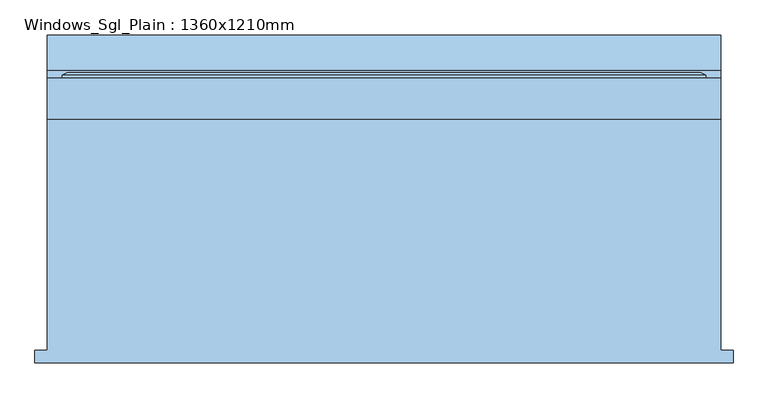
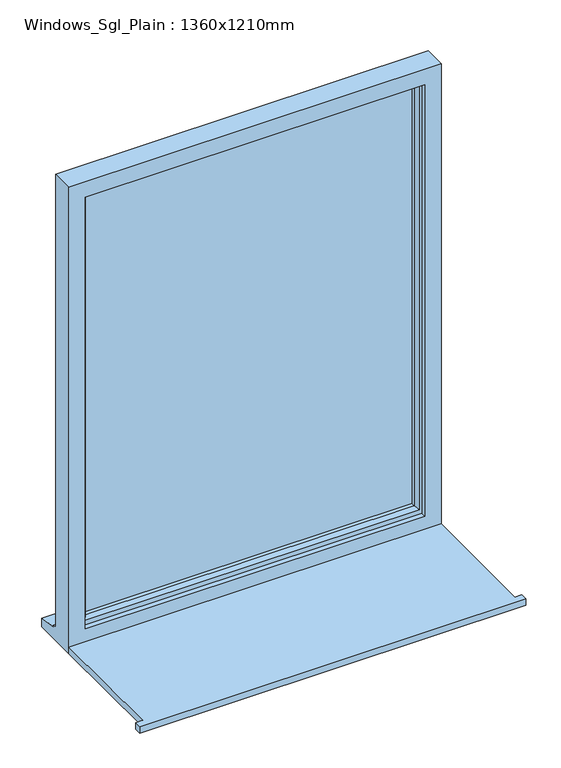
"""IFC4 building model written with IfcOpenShell, lengths in millimetres: window geometry, Windows_Sgl_Plain : 1360x1210mm."""

from ifc_helpers import new_model, si_unit, frame, origin, place, context, project, spatial, polyline, outline, extrude, faceted_brep, source, transform, mapped, element, save


def windows_sgl_plain_1360x1210mm_ccfeedc9(model_context):
    return source(origin(), model_context, "Body", "SolidModel", [
        extrude(outline(polyline([(-705.0, -316.5434322), (-705.0, -291.5434322), (-680.0, -291.5434322), (-680.0, 175.4565678), (680.0, 175.4565678), (680.0, -291.5434322), (705.0, -291.5434322), (705.0, -316.5434322), (-705.0, -316.5434322)])), frame((0.0, 0.0, 310.0), z_axis=(0.0, 0.0, 1.0), x_axis=(1.0, 0.0, 0.0)), (0.0, 0.0, 1.0), 25.0),
        faceted_brep([(-680.0, 175.4565678, 310.0), (680.0, 175.4565678, 310.0), (680.0, 175.4565678, 2110.0), (-680.0, 175.4565678, 2110.0), (-620.0, 175.4565678, 2050.0), (620.0, 175.4565678, 2050.0), (620.0, 175.4565678, 385.0), (-620.0, 175.4565678, 385.0), (-680.0, 258.4565678, 2110.0), (-680.0, 258.4565678, 361.0), (-680.0, 273.4565678, 359.68767), (-680.0, 273.4565678, 354.7449676), (-680.0, 345.9565678, 343.8088847), (-680.0, 345.9565678, 310.0), (680.0, 258.4565678, 2110.0), (680.0, 258.4565678, 361.0), (-640.0, 258.4565678, 2070.0), (-640.0, 258.4565678, 373.0), (640.0, 258.4565678, 373.0), (640.0, 258.4565678, 2070.0), (-640.0, 193.4565678, 2070.0), (-640.0, 193.4565678, 373.0), (640.0, 193.4565678, 2070.0), (640.0, 193.4565678, 373.0), (-620.0, 193.4565678, 2050.0), (-620.0, 193.4565678, 385.0), (620.0, 193.4565678, 385.0), (620.0, 193.4565678, 2050.0), (680.0, 345.9565678, 310.0), (680.0, 345.9565678, 343.8088847), (680.0, 273.4565678, 354.7449676), (680.0, 273.4565678, 359.68767)], [[[0, 1, 2, 3], [4, 5, 6, 7]], [[0, 3, 8, 9, 10, 11, 12, 13]], [[9, 8, 14, 15], [16, 17, 18, 19]], [[17, 16, 20, 21]], [[20, 22, 23, 21], [24, 25, 26, 27]], [[24, 4, 7, 25]], [[3, 2, 14, 8]], [[16, 19, 22, 20]], [[5, 4, 24, 27]], [[15, 14, 2, 1, 28, 29, 30, 31]], [[19, 18, 23, 22]], [[5, 27, 26, 6]], [[28, 1, 0, 13]], [[29, 28, 13, 12]], [[30, 29, 12, 11]], [[31, 30, 11, 10]], [[15, 31, 10, 9]], [[21, 23, 18, 17]], [[7, 6, 26, 25]]]),
        extrude(outline(polyline([(610.0, 222.4565678), (-610.0, 222.4565678), (-610.0, 246.4565678), (610.0, 246.4565678), (610.0, 222.4565678)])), frame((0.0, 0.0, 403.0), z_axis=(0.0, 0.0, 1.0), x_axis=(1.0, 0.0, 0.0)), (0.0, 0.0, 1.0), 1637.0),
        faceted_brep([(-650.0, 258.4565678, 2080.0), (-650.0, 264.2300705, 2080.0), (-650.0, 264.2300705, 363.0), (-650.0, 258.4565678, 363.0), (-640.0, 193.4565678, 2070.0), (-640.0, 258.4565678, 2070.0), (-640.0, 258.4565678, 373.0), (-640.0, 193.4565678, 373.0), (-600.0, 207.9494677, 2030.0), (-610.1480377, 193.4565678, 2040.1480377), (-610.1480377, 193.4565678, 402.8519623), (-600.0, 207.9494677, 413.0), (-600.0, 222.4565678, 2030.0), (-600.0, 222.4565678, 413.0), (-610.0, 246.4565678, 2040.0), (-610.0, 222.4565678, 2040.0), (-610.0, 222.4565678, 403.0), (-610.0, 246.4565678, 403.0), (-600.0, 264.2300705, 2030.0), (-600.0, 246.4565678, 2030.0), (-600.0, 246.4565678, 413.0), (-600.0, 264.2300705, 413.0), (-617.4457548, 270.0035732, 2047.4457548), (-617.4457548, 270.0035732, 395.5542452), (-639.2153903, 270.0035732, 2069.2153903), (-639.2153903, 270.0035732, 373.7846097), (650.0, 264.2300705, 363.0), (650.0, 258.4565678, 363.0), (640.0, 258.4565678, 373.0), (640.0, 193.4565678, 373.0), (610.1480377, 193.4565678, 402.8519623), (600.0, 207.9494677, 413.0), (600.0, 222.4565678, 413.0), (610.0, 222.4565678, 403.0), (610.0, 246.4565678, 403.0), (600.0, 246.4565678, 413.0), (600.0, 264.2300705, 413.0), (617.4457548, 270.0035732, 395.5542452), (639.2153903, 270.0035732, 373.7846097), (650.0, 264.2300705, 2080.0), (650.0, 258.4565678, 2080.0), (640.0, 258.4565678, 2070.0), (640.0, 193.4565678, 2070.0), (610.1480377, 193.4565678, 2040.1480377), (600.0, 207.9494677, 2030.0), (600.0, 222.4565678, 2030.0), (610.0, 222.4565678, 2040.0), (610.0, 246.4565678, 2040.0), (600.0, 246.4565678, 2030.0), (600.0, 264.2300705, 2030.0), (617.4457548, 270.0035732, 2047.4457548), (639.2153903, 270.0035732, 2069.2153903)], [[[0, 1, 2, 3]], [[4, 5, 6, 7]], [[8, 9, 10, 11]], [[12, 8, 11, 13]], [[14, 15, 16, 17]], [[18, 19, 20, 21]], [[22, 18, 21, 23]], [[1, 24, 25, 2]], [[3, 2, 26, 27]], [[7, 6, 28, 29]], [[11, 10, 30, 31]], [[13, 11, 31, 32]], [[17, 16, 33, 34]], [[21, 20, 35, 36]], [[23, 21, 36, 37]], [[2, 25, 38, 26]], [[27, 26, 39, 40]], [[29, 28, 41, 42]], [[31, 30, 43, 44]], [[32, 31, 44, 45]], [[34, 33, 46, 47]], [[36, 35, 48, 49]], [[37, 36, 49, 50]], [[26, 38, 51, 39]], [[40, 39, 1, 0]], [[3, 27, 40, 0], [5, 41, 28, 6]], [[42, 41, 5, 4]], [[7, 29, 42, 4], [9, 43, 30, 10]], [[44, 43, 9, 8]], [[45, 44, 8, 12]], [[15, 46, 33, 16], [13, 32, 45, 12]], [[47, 46, 15, 14]], [[17, 34, 47, 14], [19, 48, 35, 20]], [[49, 48, 19, 18]], [[50, 49, 18, 22]], [[24, 51, 38, 25], [23, 37, 50, 22]], [[39, 51, 24, 1]]]),
    ])


if __name__ == "__main__":
    model = new_model("IFC4")
    model_context = context("Model", 3, world=origin())
    ifc_project = project(units=[si_unit("LENGTHUNIT", "METRE", prefix="MILLI")], contexts=[model_context])
    site = spatial("IfcSite", under=ifc_project)
    building = spatial("IfcBuilding", under=site)
    placement = place(None, origin())
    windows_sgl_plain_1360x1210mm_shape = windows_sgl_plain_1360x1210mm_ccfeedc9(model_context)
    element("IfcWindow", 1, ObjectType="Windows_Sgl_Plain : 1360x1210mm", at=placement, inside=building, context=model_context, shape_type="MappedRepresentation", body=[
        mapped(windows_sgl_plain_1360x1210mm_shape, transform((0.0, 0.0, 0.0), x_axis=(1.0, 0.0, 0.0), y_axis=(0.0, 1.0, 0.0), z_axis=(0.0, 0.0, 1.0))),
    ])
    save(model, "model.ifc")
